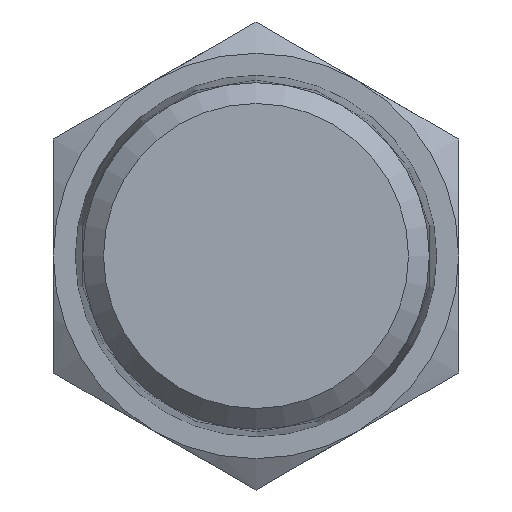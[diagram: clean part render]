
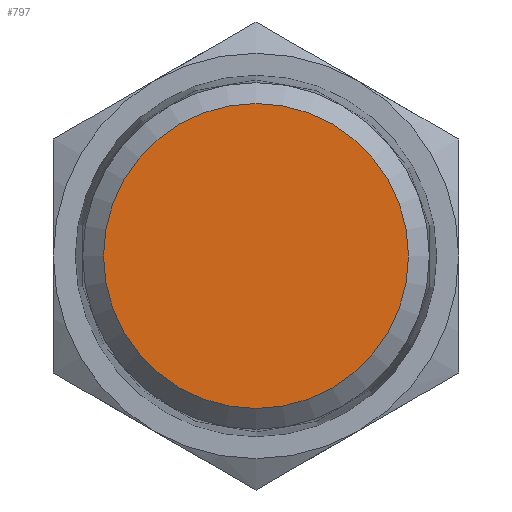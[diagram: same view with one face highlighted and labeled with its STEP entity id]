
A CAD part, left-side view. The second image highlights one B-rep face of the part: STEP entity #797.
In plain terms, the highlighted planar face has unit normal (-1, 0, 0).
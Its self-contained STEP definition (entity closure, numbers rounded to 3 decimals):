
#123=PLANE($,#867);
#159=FACE_OUTER_BOUND($,#222,.T.);
#222=EDGE_LOOP($,(#516));
#290=CIRCLE($,#863,9.027);
#322=VERTEX_POINT($,#1172);
#390=EDGE_CURVE($,#322,#322,#290,.T.);
#516=ORIENTED_EDGE($,*,*,#390,.F.);
#797=ADVANCED_FACE($,(#159),#123,.F.);
#863=AXIS2_PLACEMENT_3D($,#1173,#962,#963);
#867=AXIS2_PLACEMENT_3D($,#1179,#970,#971);
#962=DIRECTION('center_axis',(1.,0.,0.));
#963=DIRECTION('ref_axis',(0.,0.,
-1.));
#970=DIRECTION('center_axis',(1.,0.,0.));
#971=DIRECTION('ref_axis',(0.,0.,-1.));
#1172=CARTESIAN_POINT('',(-31.,0.,9.027));
#1173=CARTESIAN_POINT('Origin',(-31.,0.,0.));
#1179=CARTESIAN_POINT('Origin',(-31.,0.,0.));
